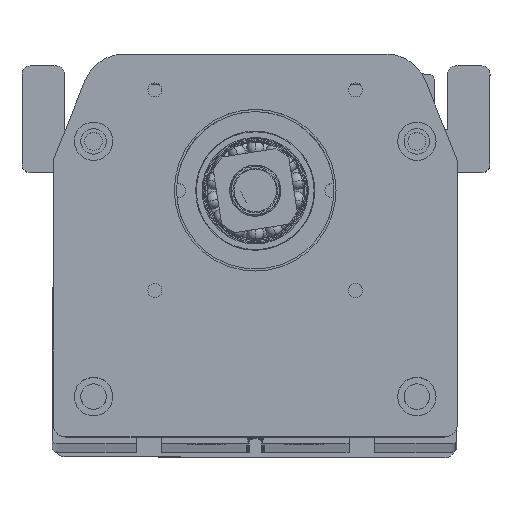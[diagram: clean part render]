
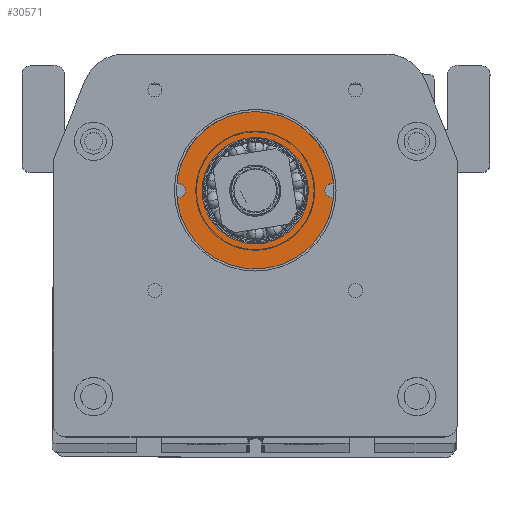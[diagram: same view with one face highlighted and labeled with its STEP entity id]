
A CAD part, top view. The second image highlights one B-rep face of the part: STEP entity #30571.
In plain terms, the highlighted planar face has unit normal (0, 0, 1) as drawn and (0, 0, -1) by its records, which use the part's own axes.
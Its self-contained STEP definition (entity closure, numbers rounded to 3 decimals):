
#277 = CARTESIAN_POINT ( 'NONE',  ( 38.737, 121.669, 51. ) ) ;
#335 = CIRCLE ( 'NONE', #11657, 1.65 ) ;
#808 = VECTOR ( 'NONE', #20099, 1000. ) ;
#1525 = VECTOR ( 'NONE', #16577, 1000. ) ;
#1700 = AXIS2_PLACEMENT_3D ( 'NONE', #277, #22302, #3423 ) ;
#1856 = CARTESIAN_POINT ( 'NONE',  ( 50.737, 172.669, 51. ) ) ;
#2145 = VERTEX_POINT ( 'NONE', #34629 ) ;
#2534 = ORIENTED_EDGE ( 'NONE', *, *, #35622, .F. ) ;
#2679 = EDGE_CURVE ( 'NONE', #2145, #18021, #9875, .T. ) ;
#2694 = CARTESIAN_POINT ( 'NONE',  ( 56.737, 121.669, 51. ) ) ;
#2936 = ORIENTED_EDGE ( 'NONE', *, *, #8467, .F. ) ;
#3423 = DIRECTION ( 'NONE',  ( -1., 0., 0. ) ) ;
#3569 = CARTESIAN_POINT ( 'NONE',  ( 26.737, 135.749, 51. ) ) ;
#3965 = CARTESIAN_POINT ( 'NONE',  ( 50.737, 135.749, 51. ) ) ;
#4477 = CARTESIAN_POINT ( 'NONE',  ( 38.737, 121.669, 51. ) ) ;
#4906 = VERTEX_POINT ( 'NONE', #40500 ) ;
#4916 = CIRCLE ( 'NONE', #1700, 18.5 ) ;
#4931 = LINE ( 'NONE', #1856, #37454 ) ;
#5255 = ORIENTED_EDGE ( 'NONE', *, *, #26266, .T. ) ;
#5819 = DIRECTION ( 'NONE',  ( -1., 0., 0. ) ) ;
#6367 = DIRECTION ( 'NONE',  ( 0., 0., -1. ) ) ;
#6702 = CARTESIAN_POINT ( 'NONE',  ( 20.737, 121.669, 51. ) ) ;
#7041 = CARTESIAN_POINT ( 'NONE',  ( 38.737, 121.669, 51. ) ) ;
#7086 = CARTESIAN_POINT ( 'NONE',  ( 26.737, 172.669, 51. ) ) ;
#7415 = ORIENTED_EDGE ( 'NONE', *, *, #17561, .F. ) ;
#7621 = AXIS2_PLACEMENT_3D ( 'NONE', #6702, #28774, #9899 ) ;
#7637 = DIRECTION ( 'NONE',  ( -1., 0., 0. ) ) ;
#7948 = CARTESIAN_POINT ( 'NONE',  ( 20.737, 121.669, 51. ) ) ;
#8010 = CIRCLE ( 'NONE', #16585, 18.5 ) ;
#8122 = VERTEX_POINT ( 'NONE', #20231 ) ;
#8334 = ORIENTED_EDGE ( 'NONE', *, *, #8414, .T. ) ;
#8414 = EDGE_CURVE ( 'NONE', #38764, #25032, #33266, .T. ) ;
#8416 = CARTESIAN_POINT ( 'NONE',  ( 50.737, 148.669, 51. ) ) ;
#8467 = EDGE_CURVE ( 'NONE', #11196, #25032, #32287, .T. ) ;
#9135 = LINE ( 'NONE', #29308, #808 ) ;
#9212 = EDGE_CURVE ( 'NONE', #11298, #11196, #21856, .T. ) ;
#9298 = ORIENTED_EDGE ( 'NONE', *, *, #31248, .F. ) ;
#9820 = CARTESIAN_POINT ( 'NONE',  ( 57.169, 123.262, 51. ) ) ;
#9875 = LINE ( 'NONE', #7086, #1525 ) ;
#9899 = DIRECTION ( 'NONE',  ( -1., 0., 0. ) ) ;
#10047 = DIRECTION ( 'NONE',  ( 0., 0., -1. ) ) ;
#10202 = DIRECTION ( 'NONE',  ( -1., 0., 0. ) ) ;
#10661 = ORIENTED_EDGE ( 'NONE', *, *, #28871, .T. ) ;
#11095 = DIRECTION ( 'NONE',  ( -1., 0., 0. ) ) ;
#11196 = VERTEX_POINT ( 'NONE', #40110 ) ;
#11298 = VERTEX_POINT ( 'NONE', #18645 ) ;
#11351 = VERTEX_POINT ( 'NONE', #37746 ) ;
#11657 = AXIS2_PLACEMENT_3D ( 'NONE', #7948, #29996, #11095 ) ;
#12434 = DIRECTION ( 'NONE',  ( 0., 0., -1. ) ) ;
#13071 = ORIENTED_EDGE ( 'NONE', *, *, #9212, .F. ) ;
#13140 = DIRECTION ( 'NONE',  ( 0., 0., -1. ) ) ;
#13862 = EDGE_LOOP ( 'NONE', ( #9298, #7415 ) ) ;
#14466 = DIRECTION ( 'NONE',  ( 0., -1., 0. ) ) ;
#15306 = CARTESIAN_POINT ( 'NONE',  ( 26.237, 121.669, 51. ) ) ;
#16577 = DIRECTION ( 'NONE',  ( 0., -1., 0. ) ) ;
#16585 = AXIS2_PLACEMENT_3D ( 'NONE', #32080, #13140, #35209 ) ;
#17561 = EDGE_CURVE ( 'NONE', #4906, #23992, #32386, .T. ) ;
#18021 = VERTEX_POINT ( 'NONE', #3569 ) ;
#18125 = FACE_BOUND ( 'NONE', #13862, .T. ) ;
#18170 = EDGE_CURVE ( 'NONE', #2145, #26893, #9135, .T. ) ;
#18645 = CARTESIAN_POINT ( 'NONE',  ( 57.169, 120.076, 51. ) ) ;
#18926 = EDGE_CURVE ( 'NONE', #26893, #38764, #4931, .T. ) ;
#19238 = EDGE_LOOP ( 'NONE', ( #10661, #32583, #37110, #33524, #8334, #2936, #13071, #5255, #2534, #35564 ) ) ;
#19455 = CARTESIAN_POINT ( 'NONE',  ( 26.737, 172.669, 51. ) ) ;
#20099 = DIRECTION ( 'NONE',  ( 1., 0., 0. ) ) ;
#20231 = CARTESIAN_POINT ( 'NONE',  ( 20.306, 120.076, 51. ) ) ;
#21856 = CIRCLE ( 'NONE', #25346, 1.65 ) ;
#22302 = DIRECTION ( 'NONE',  ( 0., 0., -1. ) ) ;
#23992 = VERTEX_POINT ( 'NONE', #15306 ) ;
#24716 = DIRECTION ( 'NONE',  ( 0., 0., -1. ) ) ;
#25032 = VERTEX_POINT ( 'NONE', #9820 ) ;
#25170 = AXIS2_PLACEMENT_3D ( 'NONE', #19455, #10047, #32140 ) ;
#25235 = CARTESIAN_POINT ( 'NONE',  ( 56.737, 121.669, 51. ) ) ;
#25346 = AXIS2_PLACEMENT_3D ( 'NONE', #2694, #24716, #5819 ) ;
#25492 = FACE_OUTER_BOUND ( 'NONE', #19238, .T. ) ;
#26266 = EDGE_CURVE ( 'NONE', #11298, #8122, #8010, .T. ) ;
#26512 = DIRECTION ( 'NONE',  ( 0., 0., -1. ) ) ;
#26893 = VERTEX_POINT ( 'NONE', #8416 ) ;
#27414 = AXIS2_PLACEMENT_3D ( 'NONE', #7041, #29101, #10202 ) ;
#28332 = CARTESIAN_POINT ( 'NONE',  ( 22.387, 121.669, 51. ) ) ;
#28418 = DIRECTION ( 'NONE',  ( -1., 0., 0. ) ) ;
#28774 = DIRECTION ( 'NONE',  ( 0., 0., -1. ) ) ;
#28871 = EDGE_CURVE ( 'NONE', #11351, #18021, #4916, .T. ) ;
#28936 = PLANE ( 'NONE',  #25170 ) ;
#29101 = DIRECTION ( 'NONE',  ( 0., 0., -1. ) ) ;
#29308 = CARTESIAN_POINT ( 'NONE',  ( 0., 148.669, 51. ) ) ;
#29977 = AXIS2_PLACEMENT_3D ( 'NONE', #4477, #26512, #7637 ) ;
#29996 = DIRECTION ( 'NONE',  ( 0., 0., -1. ) ) ;
#30571 = ADVANCED_FACE ( 'NONE', ( #25492, #18125 ), #28936, .T. ) ;
#31248 = EDGE_CURVE ( 'NONE', #23992, #4906, #32904, .T. ) ;
#31346 = CARTESIAN_POINT ( 'NONE',  ( 38.737, 121.669, 51. ) ) ;
#32080 = CARTESIAN_POINT ( 'NONE',  ( 38.737, 121.669, 51. ) ) ;
#32140 = DIRECTION ( 'NONE',  ( -1., 0., 0. ) ) ;
#32287 = CIRCLE ( 'NONE', #37700, 1.65 ) ;
#32386 = CIRCLE ( 'NONE', #27414, 12.5 ) ;
#32583 = ORIENTED_EDGE ( 'NONE', *, *, #2679, .F. ) ;
#32670 = VERTEX_POINT ( 'NONE', #28332 ) ;
#32904 = CIRCLE ( 'NONE', #29977, 12.5 ) ;
#33266 = CIRCLE ( 'NONE', #35645, 18.5 ) ;
#33524 = ORIENTED_EDGE ( 'NONE', *, *, #18926, .T. ) ;
#34497 = DIRECTION ( 'NONE',  ( -1., 0., 0. ) ) ;
#34629 = CARTESIAN_POINT ( 'NONE',  ( 26.737, 148.669, 51. ) ) ;
#35209 = DIRECTION ( 'NONE',  ( -1., 0., 0. ) ) ;
#35564 = ORIENTED_EDGE ( 'NONE', *, *, #38865, .F. ) ;
#35622 = EDGE_CURVE ( 'NONE', #32670, #8122, #36146, .T. ) ;
#35645 = AXIS2_PLACEMENT_3D ( 'NONE', #31346, #12434, #34497 ) ;
#36146 = CIRCLE ( 'NONE', #7621, 1.65 ) ;
#37110 = ORIENTED_EDGE ( 'NONE', *, *, #18170, .T. ) ;
#37454 = VECTOR ( 'NONE', #14466, 1000. ) ;
#37700 = AXIS2_PLACEMENT_3D ( 'NONE', #25235, #6367, #28418 ) ;
#37746 = CARTESIAN_POINT ( 'NONE',  ( 20.306, 123.262, 51. ) ) ;
#38764 = VERTEX_POINT ( 'NONE', #3965 ) ;
#38865 = EDGE_CURVE ( 'NONE', #11351, #32670, #335, .T. ) ;
#40110 = CARTESIAN_POINT ( 'NONE',  ( 55.087, 121.669, 51. ) ) ;
#40500 = CARTESIAN_POINT ( 'NONE',  ( 51.237, 121.669, 51. ) ) ;
